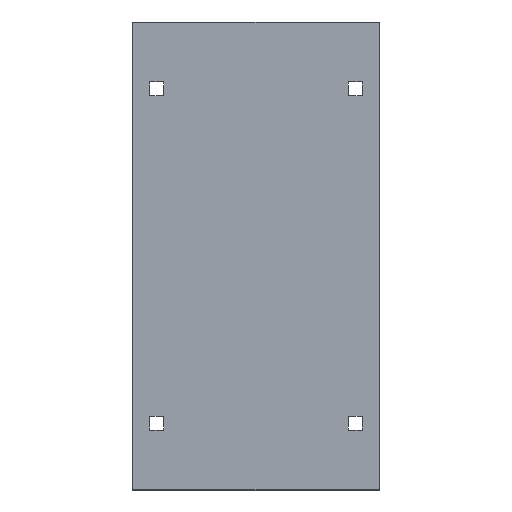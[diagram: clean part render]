
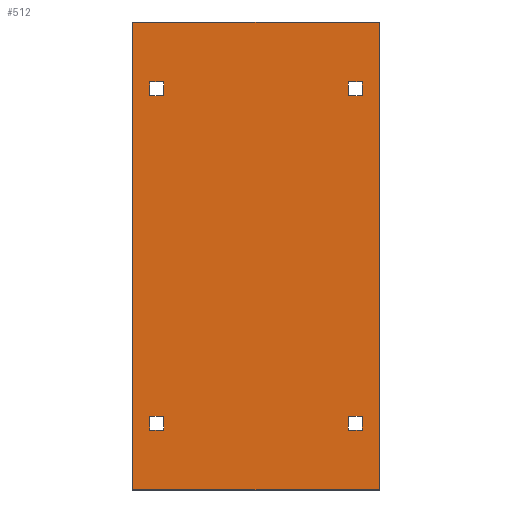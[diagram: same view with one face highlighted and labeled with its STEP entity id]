
A CAD part, left-side view. The second image highlights one B-rep face of the part: STEP entity #512.
In plain terms, the highlighted planar face has unit normal (-1, 0, 0).
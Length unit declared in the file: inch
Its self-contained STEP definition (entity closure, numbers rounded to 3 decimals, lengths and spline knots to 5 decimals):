
#25=DIRECTION('',(0.,1.,0.));
#26=VECTOR('',#25,7.24);
#27=CARTESIAN_POINT('',(-0.11,0.,0.));
#28=LINE('',#27,#26);
#41=DIRECTION('',(0.,1.,0.));
#42=VECTOR('',#41,7.24);
#43=CARTESIAN_POINT('',(-0.11,0.,-13.732));
#44=LINE('',#43,#42);
#49=DIRECTION('',(0.,-1.,0.));
#50=VECTOR('',#49,0.41);
#51=CARTESIAN_POINT('',(-0.11,0.9075,-1.755));
#52=LINE('',#51,#50);
#53=DIRECTION('',(0.,0.,1.));
#54=VECTOR('',#53,0.41);
#55=CARTESIAN_POINT('',(-0.11,0.9075,-2.165));
#56=LINE('',#55,#54);
#57=DIRECTION('',(0.,1.,0.));
#58=VECTOR('',#57,0.41);
#59=CARTESIAN_POINT('',(-0.11,0.4975,-2.165));
#60=LINE('',#59,#58);
#61=DIRECTION('',(0.,0.,-1.));
#62=VECTOR('',#61,0.41);
#63=CARTESIAN_POINT('',(-0.11,0.4975,-1.755));
#64=LINE('',#63,#62);
#65=DIRECTION('',(0.,0.,-1.));
#66=VECTOR('',#65,0.41);
#67=CARTESIAN_POINT('',(-0.11,6.3325,-1.755));
#68=LINE('',#67,#66);
#69=DIRECTION('',(0.,-1.,0.));
#70=VECTOR('',#69,0.41);
#71=CARTESIAN_POINT('',(-0.11,6.7425,-1.755));
#72=LINE('',#71,#70);
#73=DIRECTION('',(0.,0.,1.));
#74=VECTOR('',#73,0.41);
#75=CARTESIAN_POINT('',(-0.11,6.7425,-2.165));
#76=LINE('',#75,#74);
#77=DIRECTION('',(0.,1.,0.));
#78=VECTOR('',#77,0.41);
#79=CARTESIAN_POINT('',(-0.11,6.3325,-2.165));
#80=LINE('',#79,#78);
#81=DIRECTION('',(0.,0.,-1.));
#82=VECTOR('',#81,13.732);
#83=CARTESIAN_POINT('',(-0.11,0.,0.));
#84=LINE('',#83,#82);
#85=DIRECTION('',(0.,0.,1.));
#86=VECTOR('',#85,13.732);
#87=CARTESIAN_POINT('',(-0.11,7.24,-13.732));
#88=LINE('',#87,#86);
#89=DIRECTION('',(0.,-1.,0.));
#90=VECTOR('',#89,0.41);
#91=CARTESIAN_POINT('',(-0.11,0.9075,-11.977));
#92=LINE('',#91,#90);
#93=DIRECTION('',(0.,0.,1.));
#94=VECTOR('',#93,0.41);
#95=CARTESIAN_POINT('',(-0.11,0.4975,-11.977));
#96=LINE('',#95,#94);
#97=DIRECTION('',(0.,1.,0.));
#98=VECTOR('',#97,0.41);
#99=CARTESIAN_POINT('',(-0.11,0.4975,-11.567));
#100=LINE('',#99,#98);
#101=DIRECTION('',(0.,0.,-1.));
#102=VECTOR('',#101,0.41);
#103=CARTESIAN_POINT('',(-0.11,0.9075,-11.567));
#104=LINE('',#103,#102);
#105=DIRECTION('',(0.,0.,1.));
#106=VECTOR('',#105,0.41);
#107=CARTESIAN_POINT('',(-0.11,6.3325,-11.977));
#108=LINE('',#107,#106);
#109=DIRECTION('',(0.,1.,0.));
#110=VECTOR('',#109,0.41);
#111=CARTESIAN_POINT('',(-0.11,6.3325,-11.567));
#112=LINE('',#111,#110);
#113=DIRECTION('',(0.,0.,-1.));
#114=VECTOR('',#113,0.41);
#115=CARTESIAN_POINT('',(-0.11,6.7425,-11.567));
#116=LINE('',#115,#114);
#117=DIRECTION('',(0.,-1.,0.));
#118=VECTOR('',#117,0.41);
#119=CARTESIAN_POINT('',(-0.11,6.7425,-11.977));
#120=LINE('',#119,#118);
#301=CARTESIAN_POINT('',(-0.11,0.,0.));
#302=VERTEX_POINT('',#301);
#303=CARTESIAN_POINT('',(-0.11,7.24,0.));
#304=VERTEX_POINT('',#303);
#317=CARTESIAN_POINT('',(-0.11,0.,-13.732));
#318=VERTEX_POINT('',#317);
#319=CARTESIAN_POINT('',(-0.11,7.24,-13.732));
#320=VERTEX_POINT('',#319);
#337=CARTESIAN_POINT('',(-0.11,0.9075,-1.755));
#338=CARTESIAN_POINT('',(-0.11,0.4975,-1.755));
#339=VERTEX_POINT('',#337);
#340=VERTEX_POINT('',#338);
#341=CARTESIAN_POINT('',(-0.11,0.4975,-2.165));
#342=VERTEX_POINT('',#341);
#343=CARTESIAN_POINT('',(-0.11,0.9075,-2.165));
#344=VERTEX_POINT('',#343);
#345=CARTESIAN_POINT('',(-0.11,6.3325,-1.755));
#346=CARTESIAN_POINT('',(-0.11,6.3325,-2.165));
#347=VERTEX_POINT('',#345);
#348=VERTEX_POINT('',#346);
#349=CARTESIAN_POINT('',(-0.11,6.7425,-2.165));
#350=VERTEX_POINT('',#349);
#351=CARTESIAN_POINT('',(-0.11,6.7425,-1.755));
#352=VERTEX_POINT('',#351);
#354=CARTESIAN_POINT('',(-0.11,0.9075,-11.977));
#356=VERTEX_POINT('',#354);
#358=CARTESIAN_POINT('',(-0.11,0.4975,-11.977));
#360=VERTEX_POINT('',#358);
#362=CARTESIAN_POINT('',(-0.11,0.4975,-11.567));
#364=VERTEX_POINT('',#362);
#366=CARTESIAN_POINT('',(-0.11,0.9075,-11.567));
#368=VERTEX_POINT('',#366);
#370=CARTESIAN_POINT('',(-0.11,6.3325,-11.977));
#372=VERTEX_POINT('',#370);
#374=CARTESIAN_POINT('',(-0.11,6.3325,-11.567));
#376=VERTEX_POINT('',#374);
#378=CARTESIAN_POINT('',(-0.11,6.7425,-11.567));
#380=VERTEX_POINT('',#378);
#382=CARTESIAN_POINT('',(-0.11,6.7425,-11.977));
#384=VERTEX_POINT('',#382);
#460=CARTESIAN_POINT('',(-0.11,0.,0.));
#461=DIRECTION('',(-1.,0.,0.));
#462=DIRECTION('',(0.,1.,0.));
#463=AXIS2_PLACEMENT_3D('',#460,#461,#462);
#464=PLANE('',#463);
#466=ORIENTED_EDGE('',*,*,#465,.T.);
#467=ORIENTED_EDGE('',*,*,#432,.T.);
#468=ORIENTED_EDGE('',*,*,#452,.T.);
#469=ORIENTED_EDGE('',*,*,#402,.F.);
#470=EDGE_LOOP('',(#466,#467,#468,#469));
#471=FACE_OUTER_BOUND('',#470,.F.);
#473=ORIENTED_EDGE('',*,*,#472,.F.);
#475=ORIENTED_EDGE('',*,*,#474,.F.);
#477=ORIENTED_EDGE('',*,*,#476,.F.);
#479=ORIENTED_EDGE('',*,*,#478,.F.);
#480=EDGE_LOOP('',(#473,#475,#477,#479));
#481=FACE_BOUND('',#480,.F.);
#483=ORIENTED_EDGE('',*,*,#482,.F.);
#485=ORIENTED_EDGE('',*,*,#484,.F.);
#487=ORIENTED_EDGE('',*,*,#486,.F.);
#489=ORIENTED_EDGE('',*,*,#488,.F.);
#490=EDGE_LOOP('',(#483,#485,#487,#489));
#491=FACE_BOUND('',#490,.F.);
#493=ORIENTED_EDGE('',*,*,#492,.T.);
#495=ORIENTED_EDGE('',*,*,#494,.T.);
#497=ORIENTED_EDGE('',*,*,#496,.T.);
#499=ORIENTED_EDGE('',*,*,#498,.T.);
#500=EDGE_LOOP('',(#493,#495,#497,#499));
#501=FACE_BOUND('',#500,.F.);
#503=ORIENTED_EDGE('',*,*,#502,.T.);
#505=ORIENTED_EDGE('',*,*,#504,.T.);
#507=ORIENTED_EDGE('',*,*,#506,.T.);
#509=ORIENTED_EDGE('',*,*,#508,.T.);
#510=EDGE_LOOP('',(#503,#505,#507,#509));
#511=FACE_BOUND('',#510,.F.);
#512=ADVANCED_FACE('',(#471,#481,#491,#501,#511),#464,.T.);
#402=EDGE_CURVE('',#302,#304,#28,.T.);
#432=EDGE_CURVE('',#318,#320,#44,.T.);
#452=EDGE_CURVE('',#320,#304,#88,.T.);
#465=EDGE_CURVE('',#302,#318,#84,.T.);
#472=EDGE_CURVE('',#339,#340,#52,.T.);
#474=EDGE_CURVE('',#344,#339,#56,.T.);
#476=EDGE_CURVE('',#342,#344,#60,.T.);
#478=EDGE_CURVE('',#340,#342,#64,.T.);
#482=EDGE_CURVE('',#347,#348,#68,.T.);
#484=EDGE_CURVE('',#352,#347,#72,.T.);
#486=EDGE_CURVE('',#350,#352,#76,.T.);
#488=EDGE_CURVE('',#348,#350,#80,.T.);
#492=EDGE_CURVE('',#356,#360,#92,.T.);
#494=EDGE_CURVE('',#360,#364,#96,.T.);
#496=EDGE_CURVE('',#364,#368,#100,.T.);
#498=EDGE_CURVE('',#368,#356,#104,.T.);
#502=EDGE_CURVE('',#372,#376,#108,.T.);
#504=EDGE_CURVE('',#376,#380,#112,.T.);
#506=EDGE_CURVE('',#380,#384,#116,.T.);
#508=EDGE_CURVE('',#384,#372,#120,.T.);
